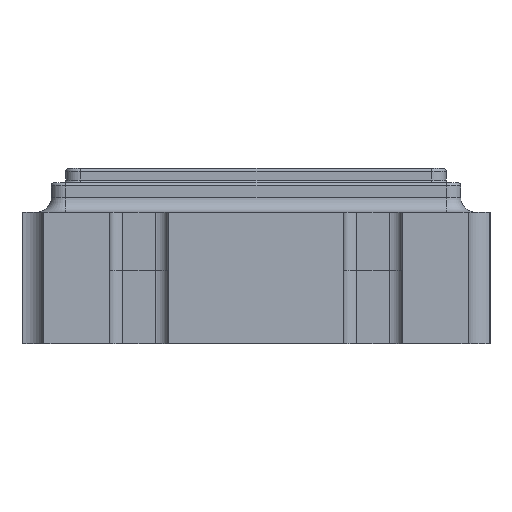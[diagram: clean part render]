
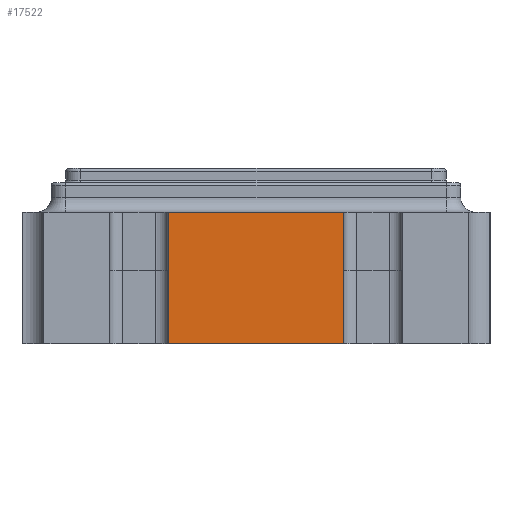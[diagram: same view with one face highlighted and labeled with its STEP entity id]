
A CAD part, left-side view. The second image highlights one B-rep face of the part: STEP entity #17522.
In plain terms, the highlighted planar face has unit normal (-1, 0, 0).
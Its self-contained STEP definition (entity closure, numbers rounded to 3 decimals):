
#168 = CARTESIAN_POINT ( 'NONE',  ( -2.5, -0.599, -0.4 ) ) ;
#2294 = DIRECTION ( 'NONE',  ( 0., 1., 0. ) ) ;
#2705 = CARTESIAN_POINT ( 'NONE',  ( -2.5, 0.6, -0.4 ) ) ;
#2844 = ORIENTED_EDGE ( 'NONE', *, *, #21431, .T. ) ;
#3138 = CARTESIAN_POINT ( 'NONE',  ( -2.5, 0.6, -0.9 ) ) ;
#3150 = ORIENTED_EDGE ( 'NONE', *, *, #3736, .T. ) ;
#3311 = LINE ( 'NONE', #12954, #11156 ) ;
#3313 = EDGE_CURVE ( 'NONE', #9150, #5417, #17753, .T. ) ;
#3346 = VECTOR ( 'NONE', #2294, 1000. ) ;
#3736 = EDGE_CURVE ( 'NONE', #12362, #14403, #13212, .T. ) ;
#3966 = CARTESIAN_POINT ( 'NONE',  ( -2.5, 0.6, -0.4 ) ) ;
#4473 = DIRECTION ( 'NONE',  ( 0., 0., -1. ) ) ;
#4773 = AXIS2_PLACEMENT_3D ( 'NONE', #11329, #16040, #19362 ) ;
#4936 = EDGE_CURVE ( 'NONE', #11944, #8761, #14233, .T. ) ;
#5110 = DIRECTION ( 'NONE',  ( 0., 0., -1. ) ) ;
#5417 = VERTEX_POINT ( 'NONE', #3966 ) ;
#6198 = VERTEX_POINT ( 'NONE', #168 ) ;
#6406 = EDGE_CURVE ( 'NONE', #21046, #6198, #11336, .T. ) ;
#6511 = CARTESIAN_POINT ( 'NONE',  ( -2.5, -0.6, -0.4 ) ) ;
#8225 = LINE ( 'NONE', #3138, #19228 ) ;
#8436 = CARTESIAN_POINT ( 'NONE',  ( -2.5, -0.599, -0.4 ) ) ;
#8671 = VECTOR ( 'NONE', #18992, 1000. ) ;
#8761 = VERTEX_POINT ( 'NONE', #14235 ) ;
#9150 = VERTEX_POINT ( 'NONE', #20465 ) ;
#9394 = FACE_OUTER_BOUND ( 'NONE', #17283, .T. ) ;
#9598 = PLANE ( 'NONE',  #4773 ) ;
#10097 = ORIENTED_EDGE ( 'NONE', *, *, #6406, .F. ) ;
#10129 = DIRECTION ( 'NONE',  ( 0., 0., -1. ) ) ;
#11156 = VECTOR ( 'NONE', #10129, 1000. ) ;
#11224 = EDGE_CURVE ( 'NONE', #6198, #14403, #11919, .T. ) ;
#11287 = VECTOR ( 'NONE', #14391, 1000. ) ;
#11329 = CARTESIAN_POINT ( 'NONE',  ( -2.5, 1.6, -0.9 ) ) ;
#11336 = LINE ( 'NONE', #6511, #11287 ) ;
#11397 = CARTESIAN_POINT ( 'NONE',  ( -2.5, -0.6, -0.4 ) ) ;
#11919 = LINE ( 'NONE', #8436, #20627 ) ;
#11944 = VERTEX_POINT ( 'NONE', #17733 ) ;
#12362 = VERTEX_POINT ( 'NONE', #18698 ) ;
#12954 = CARTESIAN_POINT ( 'NONE',  ( -2.5, 0.599, -0.4 ) ) ;
#13212 = LINE ( 'NONE', #21236, #19666 ) ;
#14233 = LINE ( 'NONE', #17558, #8671 ) ;
#14235 = CARTESIAN_POINT ( 'NONE',  ( -2.5, -0.6, 0. ) ) ;
#14391 = DIRECTION ( 'NONE',  ( 0., 1., 0. ) ) ;
#14403 = VERTEX_POINT ( 'NONE', #18533 ) ;
#14504 = ORIENTED_EDGE ( 'NONE', *, *, #3313, .F. ) ;
#14512 = DIRECTION ( 'NONE',  ( 0., -1., 0. ) ) ;
#14974 = DIRECTION ( 'NONE',  ( 0., 0., 1. ) ) ;
#14978 = VECTOR ( 'NONE', #4473, 1000. ) ;
#16040 = DIRECTION ( 'NONE',  ( -1., 0., 0. ) ) ;
#17162 = ORIENTED_EDGE ( 'NONE', *, *, #19838, .F. ) ;
#17283 = EDGE_LOOP ( 'NONE', ( #19431, #10097, #21130, #18708, #17162, #14504, #2844, #3150 ) ) ;
#17522 = ADVANCED_FACE ( 'NONE', ( #9394 ), #9598, .T. ) ;
#17558 = CARTESIAN_POINT ( 'NONE',  ( -2.5, 1.6, 0. ) ) ;
#17733 = CARTESIAN_POINT ( 'NONE',  ( -2.5, 0.6, 0. ) ) ;
#17753 = LINE ( 'NONE', #2705, #3346 ) ;
#18108 = LINE ( 'NONE', #19985, #14978 ) ;
#18533 = CARTESIAN_POINT ( 'NONE',  ( -2.5, -0.599, -0.9 ) ) ;
#18698 = CARTESIAN_POINT ( 'NONE',  ( -2.5, 0.599, -0.9 ) ) ;
#18708 = ORIENTED_EDGE ( 'NONE', *, *, #4936, .F. ) ;
#18992 = DIRECTION ( 'NONE',  ( 0., -1., 0. ) ) ;
#19228 = VECTOR ( 'NONE', #14974, 1000. ) ;
#19362 = DIRECTION ( 'NONE',  ( 0., 0., 1. ) ) ;
#19431 = ORIENTED_EDGE ( 'NONE', *, *, #11224, .F. ) ;
#19666 = VECTOR ( 'NONE', #14512, 1000. ) ;
#19838 = EDGE_CURVE ( 'NONE', #5417, #11944, #8225, .T. ) ;
#19985 = CARTESIAN_POINT ( 'NONE',  ( -2.5, -0.6, -0.9 ) ) ;
#20465 = CARTESIAN_POINT ( 'NONE',  ( -2.5, 0.599, -0.4 ) ) ;
#20627 = VECTOR ( 'NONE', #5110, 1000. ) ;
#21037 = EDGE_CURVE ( 'NONE', #8761, #21046, #18108, .T. ) ;
#21046 = VERTEX_POINT ( 'NONE', #11397 ) ;
#21130 = ORIENTED_EDGE ( 'NONE', *, *, #21037, .F. ) ;
#21236 = CARTESIAN_POINT ( 'NONE',  ( -2.5, 1.6, -0.9 ) ) ;
#21431 = EDGE_CURVE ( 'NONE', #9150, #12362, #3311, .T. ) ;
